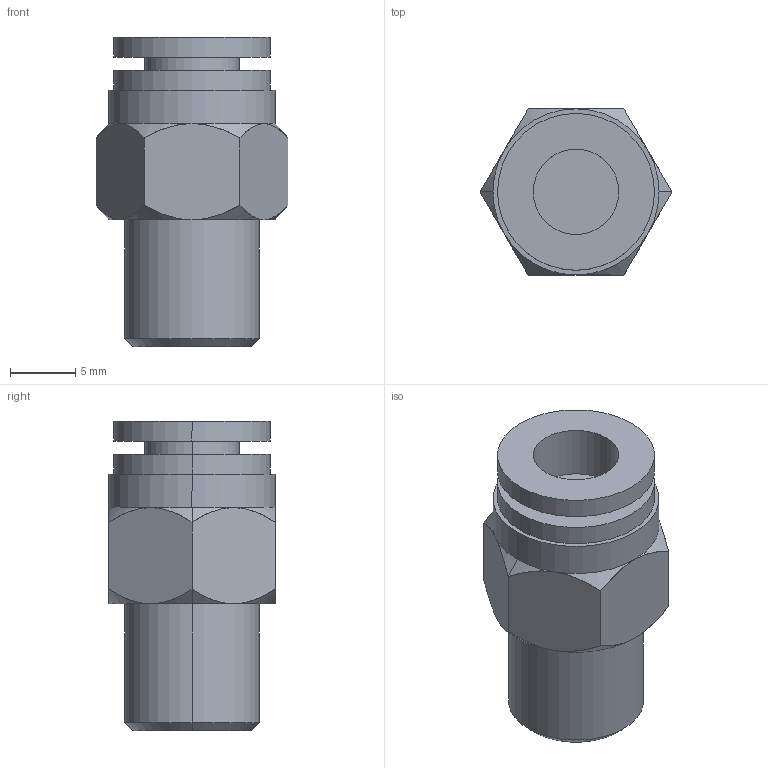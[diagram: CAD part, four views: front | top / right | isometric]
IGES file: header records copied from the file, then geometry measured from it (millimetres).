
Global section: file name: C:\Documents and Settings\Administrator\My Documents\PersonalProject\smcstraight.igs; native system: AutoDesk Inventor R2.0 ; preprocessor: AutoDesk Inventor Iges Exporter R2.0; author: No Author specified; organization: No Organization specified; date: 20020115.192300; units: inch
Bounding box: 14.66 x 12.7 x 23.69 mm (x, y, z)
Surface area: 1651.9 mm2 (no closed solid volume)
Topology: 0 solids, 0 shells, 46 faces, 188 edges, 188 vertices
Faces by surface type: revolution 32, bspline 14
